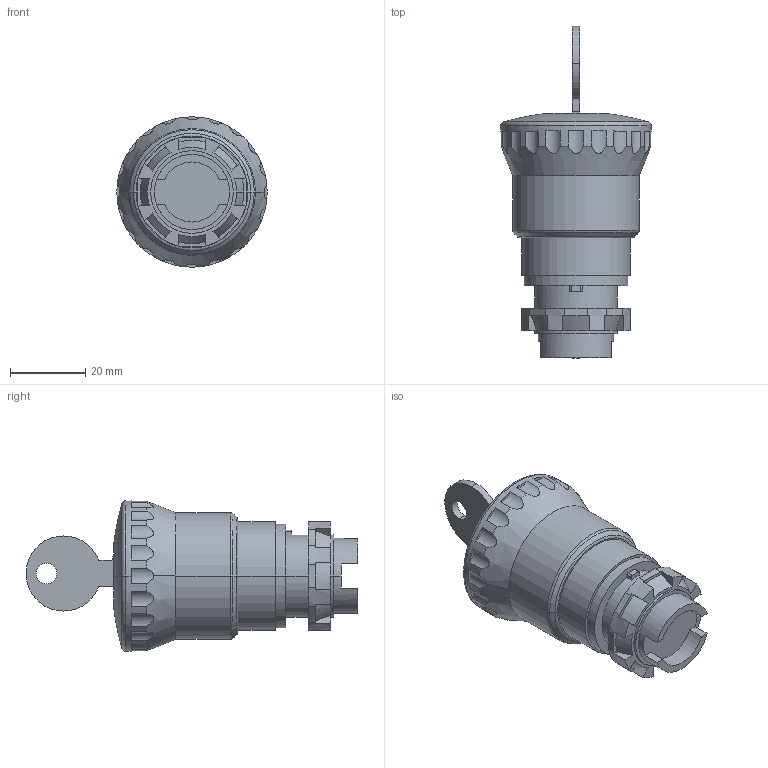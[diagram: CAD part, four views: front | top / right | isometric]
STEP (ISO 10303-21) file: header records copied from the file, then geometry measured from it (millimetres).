
FILE_DESCRIPTION (( 'STEP AP203' ), '1' );
FILE_NAME ('ZF_STEP_E2_xPEBZ4xxx_A10.step', '2011-03-01T11:13:39', ( 'Pizzato Elettrica' ), ( '' ), 'SwSTEP 2.0', 'SolidWorks 2010', '' );
FILE_SCHEMA (( 'CONFIG_CONTROL_DESIGN' ));
Length unit declared in the file: millimetre
Products named in the file (4): ZF_STEP_E2_xPEBZ4xxx_A10; Pizzato_E2_xPEBZ4xxx_senza chiave; Pizzato_Chiave_Serratura_21040; ZF_STEP_VE_GF121A_A10_21008
Assembly tree (3 placements, depth 2):
  ZF_STEP_E2_xPEBZ4xxx_A10
    Pizzato_Chiave_Serratura_21040
    ZF_STEP_VE_GF121A_A10_21008
    Pizzato_E2_xPEBZ4xxx_senza chiave
Bounding box: 40 x 88.39 x 40 mm (x, y, z)
Volume: 48639.8 mm3; surface area: 11279.2 mm2
Topology: 3 solids, 3 shells, 164 faces, 447 edges, 294 vertices
Faces by surface type: plane 87, cylinder 56, cone 13, torus 8
Entity records: 6087 total; most frequent: CARTESIAN_POINT 1422, DIRECTION 929, ORIENTED_EDGE 894, EDGE_CURVE 447, AXIS2_PLACEMENT_3D 355, VERTEX_POINT 294, LINE 219, VECTOR 219
